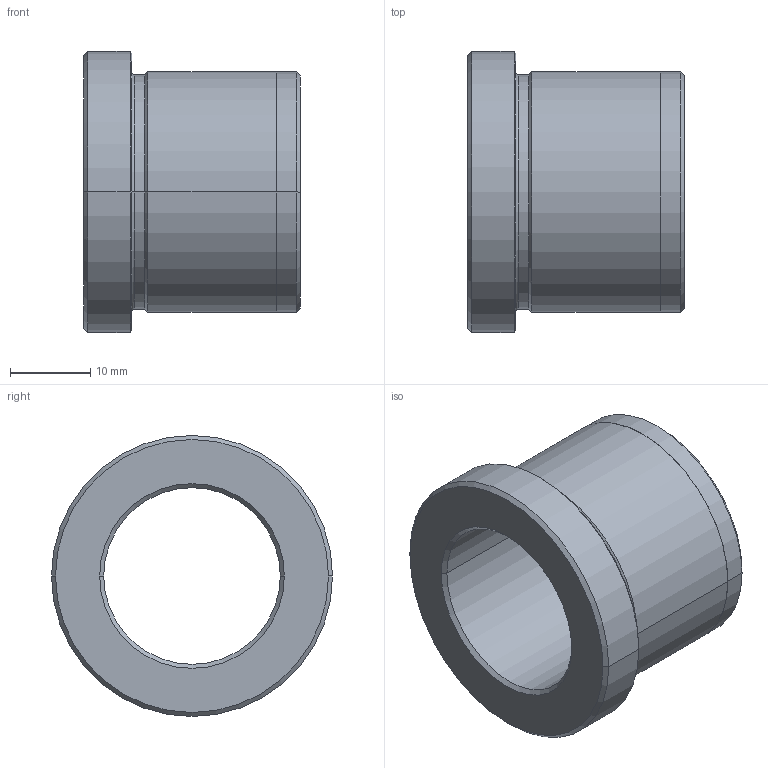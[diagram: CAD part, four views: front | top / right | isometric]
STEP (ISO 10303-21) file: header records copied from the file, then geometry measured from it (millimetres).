
FILE_DESCRIPTION (( 'STEP AP203' ), '1' );
FILE_NAME ('GDB-ESS-22-027.step', '2015-12-13T18:31:16', ( '' ), ( '' ), 'SwSTEP 2.0', 'SolidWorks 2009', '' );
FILE_SCHEMA (( 'CONFIG_CONTROL_DESIGN' ));
Length unit declared in the file: millimetre
Products named in the file (1): GDB-ESS-22-027
Bounding box: 27 x 35 x 35 mm (x, y, z)
Volume: 10182.9 mm3; surface area: 5554 mm2
Topology: 1 solids, 1 shells, 28 faces, 56 edges, 32 vertices
Faces by surface type: cone 10, cylinder 10, torus 4, plane 4
Entity records: 809 total; most frequent: DIRECTION 150, CARTESIAN_POINT 117, ORIENTED_EDGE 112, AXIS2_PLACEMENT_3D 65, EDGE_CURVE 56, CIRCLE 36, EDGE_LOOP 32, VERTEX_POINT 32
